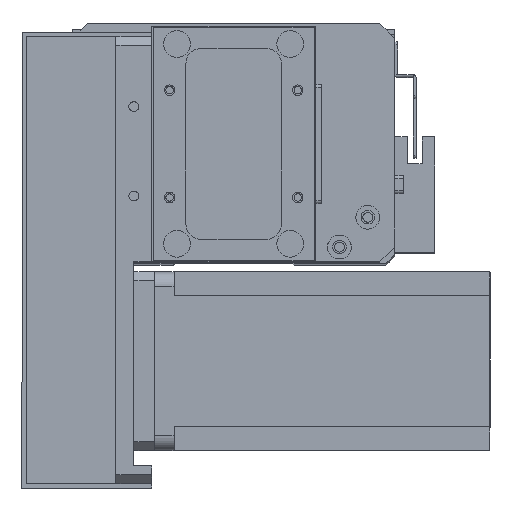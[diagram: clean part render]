
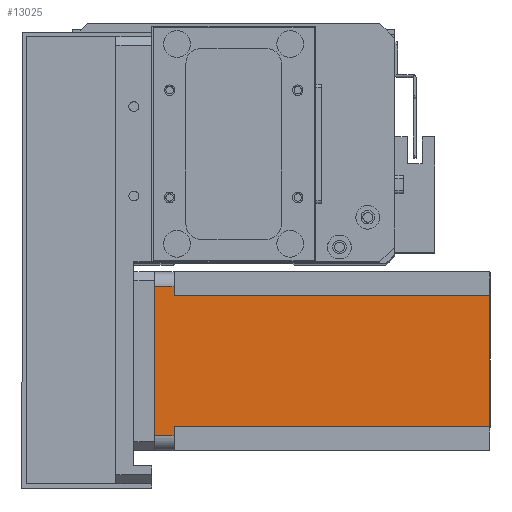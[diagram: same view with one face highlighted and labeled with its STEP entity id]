
A CAD part, top view. The second image highlights one B-rep face of the part: STEP entity #13025.
In plain terms, the highlighted planar face has unit normal (0, 0, 1) as drawn and (0, 1, 0) by its records, which use the part's own axes.
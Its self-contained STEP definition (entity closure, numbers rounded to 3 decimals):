
#452 = EDGE_LOOP ( 'NONE', ( #20760, #25108, #21540, #26918, #9324, #22373, #753, #14948 ) ) ;
#753 = ORIENTED_EDGE ( 'NONE', *, *, #16415, .T. ) ;
#858 = DIRECTION ( 'NONE',  ( -1., 0., 0. ) ) ;
#1044 = CARTESIAN_POINT ( 'NONE',  ( 0., 60., -112.5 ) ) ;
#2251 = LINE ( 'NONE', #27326, #24914 ) ;
#2300 = VECTOR ( 'NONE', #19408, 1000. ) ;
#2412 = CARTESIAN_POINT ( 'NONE',  ( 52., 60., -112.5 ) ) ;
#2427 = VERTEX_POINT ( 'NONE', #5447 ) ;
#3061 = FACE_OUTER_BOUND ( 'NONE', #452, .T. ) ;
#3268 = PLANE ( 'NONE',  #18005 ) ;
#3348 = VECTOR ( 'NONE', #22741, 1000. ) ;
#3522 = CARTESIAN_POINT ( 'NONE',  ( 52., 60., -112.5 ) ) ;
#5361 = VECTOR ( 'NONE', #5529, 1000. ) ;
#5447 = CARTESIAN_POINT ( 'NONE',  ( 5., 60., -6.5 ) ) ;
#5529 = DIRECTION ( 'NONE',  ( 1., 0., 0. ) ) ;
#5681 = DIRECTION ( 'NONE',  ( 0., 0., -1. ) ) ;
#5933 = VERTEX_POINT ( 'NONE', #9584 ) ;
#6263 = CARTESIAN_POINT ( 'NONE',  ( 5., 60., -112.5 ) ) ;
#7728 = DIRECTION ( 'NONE',  ( 0., 1., 0. ) ) ;
#8155 = LINE ( 'NONE', #28060, #2300 ) ;
#9324 = ORIENTED_EDGE ( 'NONE', *, *, #12906, .T. ) ;
#9379 = CARTESIAN_POINT ( 'NONE',  ( 55., 60., -6.5 ) ) ;
#9584 = CARTESIAN_POINT ( 'NONE',  ( 52., 60., -6.5 ) ) ;
#9689 = CARTESIAN_POINT ( 'NONE',  ( 0., 60., 0. ) ) ;
#9704 = VERTEX_POINT ( 'NONE', #2412 ) ;
#9792 = CARTESIAN_POINT ( 'NONE',  ( 0., 60., -112.5 ) ) ;
#9873 = LINE ( 'NONE', #9689, #3348 ) ;
#10284 = LINE ( 'NONE', #3522, #25728 ) ;
#10478 = EDGE_CURVE ( 'NONE', #10563, #24541, #2251, .T. ) ;
#10553 = EDGE_CURVE ( 'NONE', #5933, #24541, #11867, .T. ) ;
#10563 = VERTEX_POINT ( 'NONE', #27637 ) ;
#11240 = VERTEX_POINT ( 'NONE', #12920 ) ;
#11846 = DIRECTION ( 'NONE',  ( -1., 0., 0. ) ) ;
#11867 = LINE ( 'NONE', #24154, #5361 ) ;
#12493 = EDGE_CURVE ( 'NONE', #9704, #5933, #10284, .T. ) ;
#12906 = EDGE_CURVE ( 'NONE', #9704, #24399, #24706, .T. ) ;
#12920 = CARTESIAN_POINT ( 'NONE',  ( 8., 60., -6.5 ) ) ;
#13025 = ADVANCED_FACE ( 'NONE', ( #3061 ), #3268, .T. ) ;
#13910 = VERTEX_POINT ( 'NONE', #19443 ) ;
#14495 = EDGE_CURVE ( 'NONE', #11240, #24399, #8155, .T. ) ;
#14948 = ORIENTED_EDGE ( 'NONE', *, *, #17306, .T. ) ;
#15382 = CARTESIAN_POINT ( 'NONE',  ( 8., 60., -112.5 ) ) ;
#16415 = EDGE_CURVE ( 'NONE', #11240, #2427, #17310, .T. ) ;
#16550 = LINE ( 'NONE', #6263, #27596 ) ;
#17306 = EDGE_CURVE ( 'NONE', #2427, #13910, #16550, .T. ) ;
#17310 = LINE ( 'NONE', #22770, #22476 ) ;
#17479 = VECTOR ( 'NONE', #858, 1000. ) ;
#18005 = AXIS2_PLACEMENT_3D ( 'NONE', #9792, #7728, #23039 ) ;
#19071 = DIRECTION ( 'NONE',  ( 0., 0., 1. ) ) ;
#19408 = DIRECTION ( 'NONE',  ( 0., 0., -1. ) ) ;
#19443 = CARTESIAN_POINT ( 'NONE',  ( 5., 60., 0. ) ) ;
#20760 = ORIENTED_EDGE ( 'NONE', *, *, #21508, .F. ) ;
#21508 = EDGE_CURVE ( 'NONE', #10563, #13910, #9873, .T. ) ;
#21540 = ORIENTED_EDGE ( 'NONE', *, *, #10553, .F. ) ;
#21544 = DIRECTION ( 'NONE',  ( 0., 0., 1. ) ) ;
#22373 = ORIENTED_EDGE ( 'NONE', *, *, #14495, .F. ) ;
#22476 = VECTOR ( 'NONE', #11846, 1000. ) ;
#22741 = DIRECTION ( 'NONE',  ( -1., 0., 0. ) ) ;
#22770 = CARTESIAN_POINT ( 'NONE',  ( 8., 60., -6.5 ) ) ;
#23039 = DIRECTION ( 'NONE',  ( 0., 0., 1. ) ) ;
#24154 = CARTESIAN_POINT ( 'NONE',  ( 52., 60., -6.5 ) ) ;
#24399 = VERTEX_POINT ( 'NONE', #15382 ) ;
#24541 = VERTEX_POINT ( 'NONE', #9379 ) ;
#24706 = LINE ( 'NONE', #1044, #17479 ) ;
#24914 = VECTOR ( 'NONE', #5681, 1000. ) ;
#25108 = ORIENTED_EDGE ( 'NONE', *, *, #10478, .T. ) ;
#25728 = VECTOR ( 'NONE', #19071, 1000. ) ;
#26918 = ORIENTED_EDGE ( 'NONE', *, *, #12493, .F. ) ;
#27326 = CARTESIAN_POINT ( 'NONE',  ( 55., 60., -112.5 ) ) ;
#27596 = VECTOR ( 'NONE', #21544, 1000. ) ;
#27637 = CARTESIAN_POINT ( 'NONE',  ( 55., 60., 0. ) ) ;
#28060 = CARTESIAN_POINT ( 'NONE',  ( 8., 60., -112.5 ) ) ;
